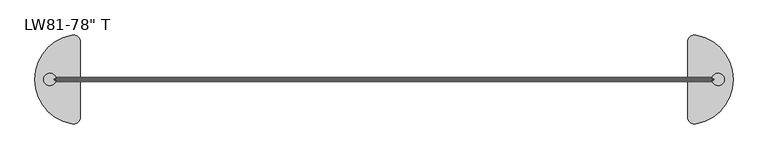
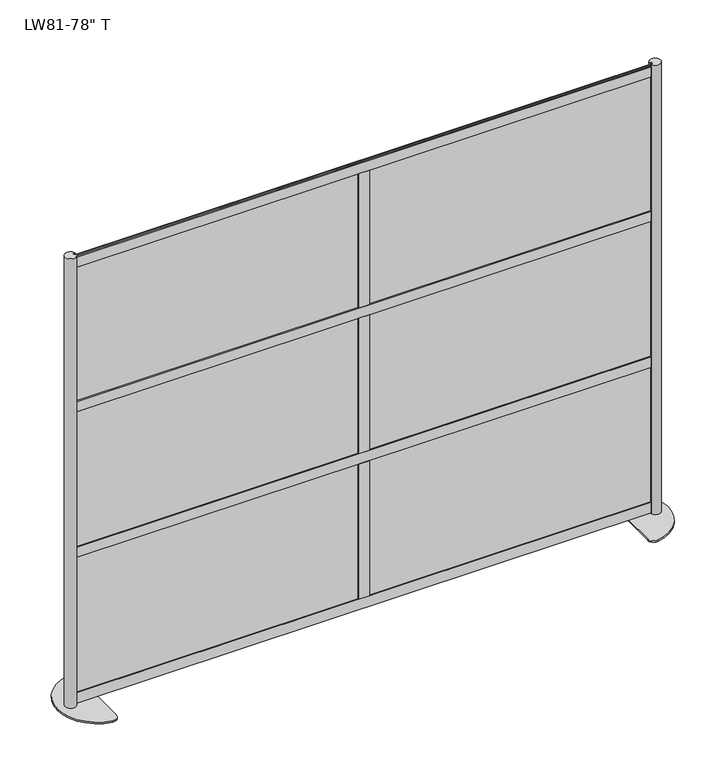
"""IFC4 building model written with IfcOpenShell, lengths in millimetres: furniture geometry."""

from ifc_helpers import new_model, si_unit, point, frame, frame_2d, origin, origin_with_axes, place, context, project, spatial, polyline, circle_curve, trimmed, segment, composite_curve, outline, extrude, source, transform, mapped, element, save


def furniture_73bdf1c8(model_context):
    return source(origin(), model_context, "Body", "SweptSolid", [
        extrude(outline(polyline([(1208.4321897, -1.5875), (19.3946897, -1.5875), (19.3946897, 1.5875), (1208.4321897, 1.5875), (1208.4321897, -1.5875)])), frame((0.0, 0.0, 49.2633), z_axis=(0.0, 0.0, 1.0), x_axis=(1.0, 0.0, 0.0)), (0.0, 0.0, 1.0), 608.965),
        extrude(outline(polyline([(-14.6411349, -1.5875), (-1203.6786349, -1.5875), (-1203.6786349, 1.5875), (-14.6411349, 1.5875), (-14.6411349, -1.5875)])), frame((0.0, 0.0, 49.2633), z_axis=(0.0, 0.0, 1.0), x_axis=(1.0, 0.0, 0.0)), (0.0, 0.0, 1.0), 608.965),
        extrude(outline(polyline([(1208.4321897, -1.5875), (19.3946897, -1.5875), (19.3946897, 1.5875), (1208.4321897, 1.5875), (1208.4321897, -1.5875)])), frame((0.0, 0.0, 689.2671), z_axis=(0.0, 0.0, 1.0), x_axis=(1.0, 0.0, 0.0)), (0.0, 0.0, 1.0), 608.965),
        extrude(outline(polyline([(-14.6411349, -1.5875), (-1203.6786349, -1.5875), (-1203.6786349, 1.5875), (-14.6411349, 1.5875), (-14.6411349, -1.5875)])), frame((0.0, 0.0, 689.2671), z_axis=(0.0, 0.0, 1.0), x_axis=(1.0, 0.0, 0.0)), (0.0, 0.0, 1.0), 608.965),
        extrude(outline(polyline([(1208.4321897, -1.5875), (19.3946897, -1.5875), (19.3946897, 1.5875), (1208.4321897, 1.5875), (1208.4321897, -1.5875)])), frame((0.0, 0.0, 1329.2709), z_axis=(0.0, 0.0, 1.0), x_axis=(1.0, 0.0, 0.0)), (0.0, 0.0, 1.0), 608.965),
        extrude(outline(polyline([(-14.6411349, -1.5875), (-1203.6786349, -1.5875), (-1203.6786349, 1.5875), (-14.6411349, 1.5875), (-14.6411349, -1.5875)])), frame((0.0, 0.0, 1329.2709), z_axis=(0.0, 0.0, 1.0), x_axis=(1.0, 0.0, 0.0)), (0.0, 0.0, 1.0), 608.965),
        extrude(outline(polyline([(22.6314, 3.556), (15.5194, 3.556), (15.5194, -3.556), (22.6314, -3.556), (22.6314, -7.6327), (-22.6314, -7.6327), (-22.6314, -3.556), (-15.5194, -3.556), (-15.5194, 3.556), (-22.6314, 3.556), (-22.6314, 7.6327), (22.6314, 7.6327), (22.6314, 3.556)])), frame((0.0, 0.0, 1336.3829), z_axis=(0.0, 0.0, 1.0), x_axis=(1.0, 0.0, 0.0)), (0.0, 0.0, 1.0), 589.75625),
        extrude(outline(polyline([(22.6314, 3.556), (15.5194, 3.556), (15.5194, -3.556), (22.6314, -3.556), (22.6314, -7.6327), (-22.6314, -7.6327), (-22.6314, -3.556), (-15.5194, -3.556), (-15.5194, 3.556), (-22.6314, 3.556), (-22.6314, 7.6327), (22.6314, 7.6327), (22.6314, 3.556)])), frame((0.0, 0.0, 56.3753), z_axis=(0.0, 0.0, 1.0), x_axis=(1.0, 0.0, 0.0)), (0.0, 0.0, 1.0), 594.741),
        extrude(outline(polyline([(22.6314, 3.556), (15.5194, 3.556), (15.5194, -3.556), (22.6314, -3.556), (22.6314, -7.6327), (-22.6314, -7.6327), (-22.6314, -3.556), (-15.5194, -3.556), (-15.5194, 3.556), (-22.6314, 3.556), (-22.6314, 7.6327), (22.6314, 7.6327), (22.6314, 3.556)])), frame((0.0, 0.0, 696.3791), z_axis=(0.0, 0.0, 1.0), x_axis=(1.0, 0.0, 0.0)), (0.0, 0.0, 1.0), 594.741),
        extrude(outline(polyline([(3.556, 651.1163), (3.556, 658.2283), (-3.556, 658.2283), (-3.556, 651.1163), (-7.6327, 651.1163), (-7.6327, 696.3791), (-3.556, 696.3791), (-3.556, 689.2671), (3.556, 689.2671), (3.556, 696.3791), (7.6327, 696.3791), (7.6327, 651.1163), (3.556, 651.1163)])), frame((-1194.5874, 0.0, 0.0), z_axis=(1.0, 0.0, 0.0), x_axis=(0.0, 1.0, 0.0)), (0.0, 0.0, 1.0), 2389.1748),
        extrude(outline(polyline([(3.556, 1291.1201), (3.556, 1298.2321), (-3.556, 1298.2321), (-3.556, 1291.1201), (-7.6327, 1291.1201), (-7.6327, 1336.3829), (-3.556, 1336.3829), (-3.556, 1329.2709), (3.556, 1329.2709), (3.556, 1336.3829), (7.6327, 1336.3829), (7.6327, 1291.1201), (3.556, 1291.1201)])), frame((-1194.5874, 0.0, 0.0), z_axis=(1.0, 0.0, 0.0), x_axis=(0.0, 1.0, 0.0)), (0.0, 0.0, 1.0), 2389.1748),
        extrude(outline(polyline([(3.556, 11.1125), (3.556, 18.2245), (-3.556, 18.2245), (-3.556, 11.1125), (-7.6327, 11.1125), (-7.6327, 56.3753), (-3.556, 56.3753), (-3.556, 49.2633), (3.556, 49.2633), (3.556, 56.3753), (7.6327, 56.3753), (7.6327, 11.1125), (3.556, 11.1125)])), frame((-1194.6636, 0.0, 0.0), z_axis=(1.0, 0.0, 0.0), x_axis=(0.0, 1.0, 0.0)), (0.0, 0.0, 1.0), 2389.3272),
        extrude(outline(polyline([(3.556, 1926.1200292), (3.556, 1933.2320292), (-3.556, 1933.2320292), (-3.556, 1926.1200292), (-7.6327, 1926.1200292), (-7.6327, 1971.3828292), (-3.556, 1971.3828292), (-3.556, 1964.2708292), (3.556, 1964.2708292), (3.556, 1971.3828292), (7.6327, 1971.3828292), (7.6327, 1926.1200292), (3.556, 1926.1200292)])), frame((-1194.6636, 0.0, 0.0), z_axis=(1.0, 0.0, 0.0), x_axis=(0.0, 1.0, 0.0)), (0.0, 0.0, 1.0), 2389.3272),
        extrude(outline(composite_curve([segment(polyline([(1194.6636, -7.7568093), (1194.6636, -3.556), (1201.7756, -3.556), (1201.7756, 3.556), (1194.6636, 3.556), (1194.6636, 7.7568093)]), True, "CONTINUOUS"), segment(trimmed(circle_curve(frame_2d((1215.7665837, 0.0)), 22.4834163), [point((1194.6636, 7.7568093))], [point((1194.6636, -7.7568093))], False, "CARTESIAN"), True, "CONTINUOUS")], self_intersect=False)), frame((0.0, 0.0, 6.35), z_axis=(0.0, 0.0, 1.0), x_axis=(1.0, 0.0, 0.0)), (0.0, 0.0, 1.0), 1974.85),
        extrude(outline(composite_curve([segment(polyline([(1104.9, -137.3715036), (1104.9, 137.3715036)]), True, "CONTINUOUS"), segment(trimmed(circle_curve(frame_2d((1130.3, 137.3715036)), 25.4), [point((1104.9, 137.3715036))], [point((1134.9181818, 162.3481406))], False, "CARTESIAN"), True, "CONTINUOUS"), segment(trimmed(circle_curve(frame_2d((1104.9, 0.0)), 165.1), [point((1134.9181818, 162.3481406))], [point((1270.0, 0.0))], False, "CARTESIAN"), True, "CONTINUOUS"), segment(trimmed(circle_curve(frame_2d((1104.9, 0.0)), 165.1), [point((1270.0, 0.0))], [point((1134.9181818, -162.3481406))], False, "CARTESIAN"), True, "CONTINUOUS"), segment(trimmed(circle_curve(frame_2d((1130.3, -137.3715036)), 25.4), [point((1134.9181818, -162.3481406))], [point((1104.9, -137.3715036))], False, "CARTESIAN"), True, "CONTINUOUS")], self_intersect=False)), origin_with_axes(), (0.0, 0.0, 1.0), 6.35),
        extrude(outline(composite_curve([segment(trimmed(circle_curve(frame_2d((-1215.7665837, 0.0)), 22.4834163), [point((-1194.6636, -7.7568093))], [point((-1194.6636, 7.7568093))], False, "CARTESIAN"), True, "CONTINUOUS"), segment(polyline([(-1194.6636, 7.7568093), (-1194.6636, 3.556), (-1201.7756, 3.556), (-1201.7756, -3.556), (-1194.6636, -3.556), (-1194.6636, -7.7568093)]), True, "CONTINUOUS")], self_intersect=False)), frame((0.0, 0.0, 6.35), z_axis=(0.0, 0.0, 1.0), x_axis=(1.0, 0.0, 0.0)), (0.0, 0.0, 1.0), 1974.85),
        extrude(outline(composite_curve([segment(trimmed(circle_curve(frame_2d((-1130.3, -137.3715036)), 25.4), [point((-1104.9, -137.3715036))], [point((-1134.9181818, -162.3481406))], False, "CARTESIAN"), True, "CONTINUOUS"), segment(trimmed(circle_curve(frame_2d((-1104.9, 0.0)), 165.1), [point((-1134.9181818, -162.3481406))], [point((-1270.0, 0.0))], False, "CARTESIAN"), True, "CONTINUOUS"), segment(trimmed(circle_curve(frame_2d((-1104.9, 0.0)), 165.1), [point((-1270.0, 0.0))], [point((-1134.9181818, 162.3481406))], False, "CARTESIAN"), True, "CONTINUOUS"), segment(trimmed(circle_curve(frame_2d((-1130.3, 137.3715036)), 25.4), [point((-1134.9181818, 162.3481406))], [point((-1104.9, 137.3715036))], False, "CARTESIAN"), True, "CONTINUOUS"), segment(polyline([(-1104.9, 137.3715036), (-1104.9, -137.3715036)]), True, "CONTINUOUS")], self_intersect=False)), origin_with_axes(), (0.0, 0.0, 1.0), 6.35),
    ])


if __name__ == "__main__":
    model = new_model("IFC4")
    model_context = context("Model", 3, world=origin())
    ifc_project = project(units=[si_unit("LENGTHUNIT", "METRE", prefix="MILLI")], contexts=[model_context])
    site = spatial("IfcSite", under=ifc_project)
    building = spatial("IfcBuilding", under=site)
    placement = place(None, origin())
    furniture_shape = furniture_73bdf1c8(model_context)
    element("IfcFurniture", 1, ObjectType="Loft_Wall-Framewall-100 : LW81-78\" T", at=placement, inside=building, context=model_context, shape_type="MappedRepresentation", body=[
        mapped(furniture_shape, transform((0.0, 0.0, 0.0), x_axis=(1.0, 0.0, 0.0), y_axis=(0.0, 1.0, 0.0), z_axis=(0.0, 0.0, 1.0))),
    ])
    save(model, "model.ifc")
